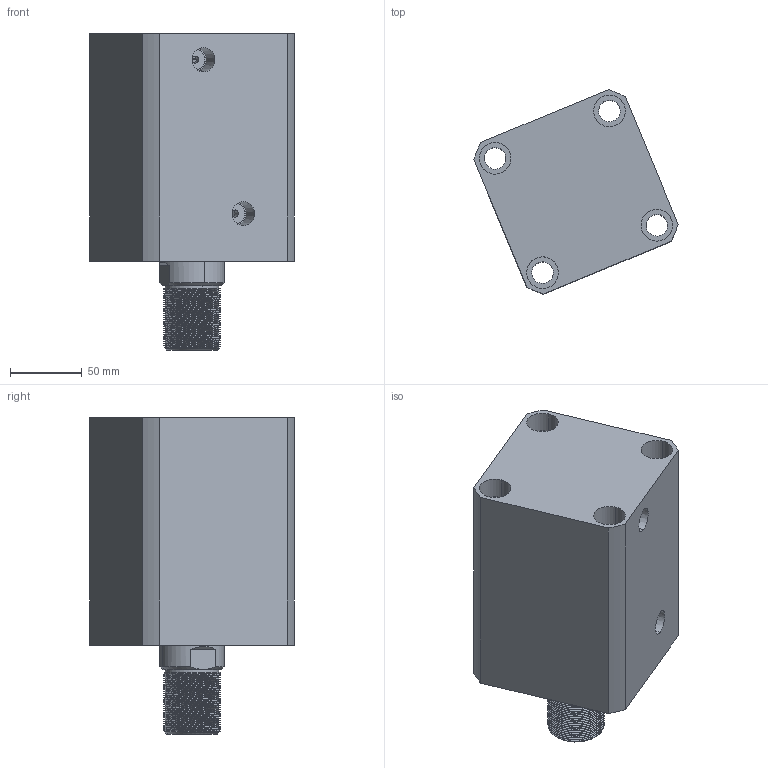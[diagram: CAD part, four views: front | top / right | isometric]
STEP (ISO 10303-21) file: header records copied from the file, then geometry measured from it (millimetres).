
FILE_DESCRIPTION (( 'STEP AP214' ), '1' );
FILE_NAME ('chtb-sd80x80n_asm.STEP', '2018-05-26T08:56:18', ( 'Windows' ), ( 'Microsoft' ), 'SwSTEP 2.0', 'SolidWorks 2015', '' );
FILE_SCHEMA (( 'AUTOMOTIVE_DESIGN' ));
Length unit declared in the file: millimetre
Products named in the file (4): CHTB-SD80X80NHSG; CHTB-SD80X80NBT; CHTB-SD80QG; chtb-sd80x80n_asm
Assembly tree (3 placements, depth 2):
  chtb-sd80x80n_asm
    CHTB-SD80QG
    CHTB-SD80X80NBT
    CHTB-SD80X80NHSG
Bounding box: 142.06 x 142.06 x 220 mm (x, y, z)
Volume: 1673148.6 mm3; surface area: 237671.7 mm2
Topology: 3 solids, 3 shells, 253 faces, 689 edges, 462 vertices
Faces by surface type: cylinder 159, plane 40, cone 20, torus 18, bspline 16
Entity records: 20271 total; most frequent: CARTESIAN_POINT 14293, ORIENTED_EDGE 1370, DIRECTION 1078, EDGE_CURVE 685, VERTEX_POINT 462, AXIS2_PLACEMENT_3D 439, EDGE_LOOP 291, ADVANCED_FACE 253
